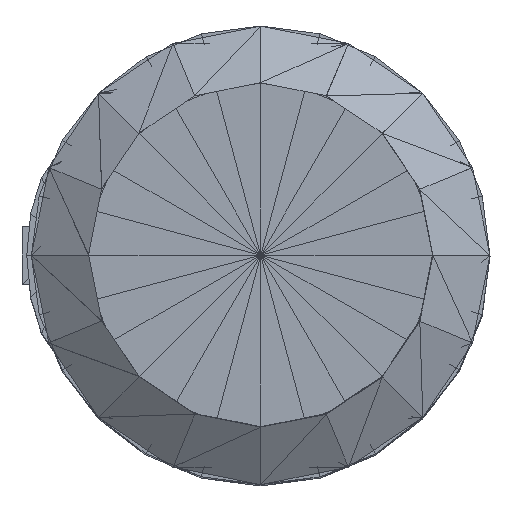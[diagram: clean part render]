
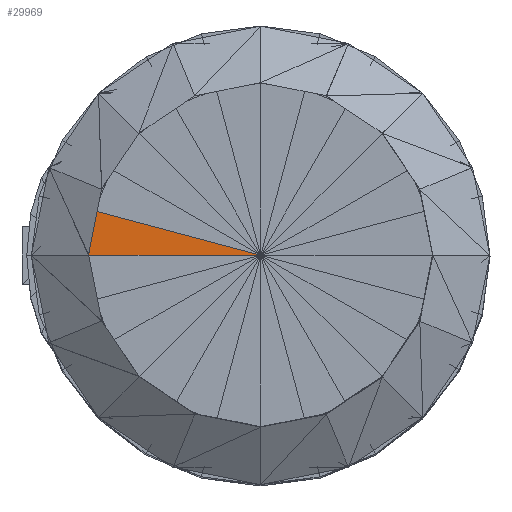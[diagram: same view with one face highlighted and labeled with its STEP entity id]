
A CAD part, top view. The second image highlights one B-rep face of the part: STEP entity #29969.
In plain terms, the highlighted planar face has unit normal (0, 0, 1).
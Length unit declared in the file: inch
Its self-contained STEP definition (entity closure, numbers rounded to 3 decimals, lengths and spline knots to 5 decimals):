
#29539=CARTESIAN_POINT('',(-0.,-0.0001,0.51086));
#29540=VERTEX_POINT('',#29539);
#29929=CARTESIAN_POINT('',(-0.09375,-0.0001,0.51086));
#29930=VERTEX_POINT('',#29929);
#29938=CARTESIAN_POINT('',(-0.09375,-0.0001,0.51086));
#29939=DIRECTION('',(1.,0.,-0.));
#29940=VECTOR('',#29939,0.09375);
#29941=LINE('',#29938,#29940);
#29942=EDGE_CURVE('',#29930,#29540,#29941,.T.);
#29947=CARTESIAN_POINT('',(-0.09055,0.02416,0.51086));
#29948=DIRECTION('',(0.,0.,1.));
#29949=DIRECTION('',(1.,0.,0.));
#29950=AXIS2_PLACEMENT_3D('',#29947,#29948,#29949);
#29951=PLANE('',#29950);
#29952=CARTESIAN_POINT('',(-0.09055,0.02416,0.51086));
#29953=VERTEX_POINT('',#29952);
#29954=CARTESIAN_POINT('',(-0.09375,-0.0001,0.51086));
#29955=DIRECTION('',(0.131,0.991,0.));
#29956=VECTOR('',#29955,0.02447);
#29957=LINE('',#29954,#29956);
#29958=EDGE_CURVE('',#29930,#29953,#29957,.T.);
#29959=ORIENTED_EDGE('',*,*,#29958,.F.);
#29960=ORIENTED_EDGE('',*,*,#29942,.T.);
#29961=CARTESIAN_POINT('',(0.,-0.0001,0.51086));
#29962=DIRECTION('',(-0.966,0.259,0.));
#29963=VECTOR('',#29962,0.09374);
#29964=LINE('',#29961,#29963);
#29965=EDGE_CURVE('',#29540,#29953,#29964,.T.);
#29966=ORIENTED_EDGE('',*,*,#29965,.T.);
#29967=EDGE_LOOP('',(#29959,#29960,#29966));
#29968=FACE_BOUND('',#29967,.T.);
#29969=ADVANCED_FACE('',(#29968),#29951,.T.);
